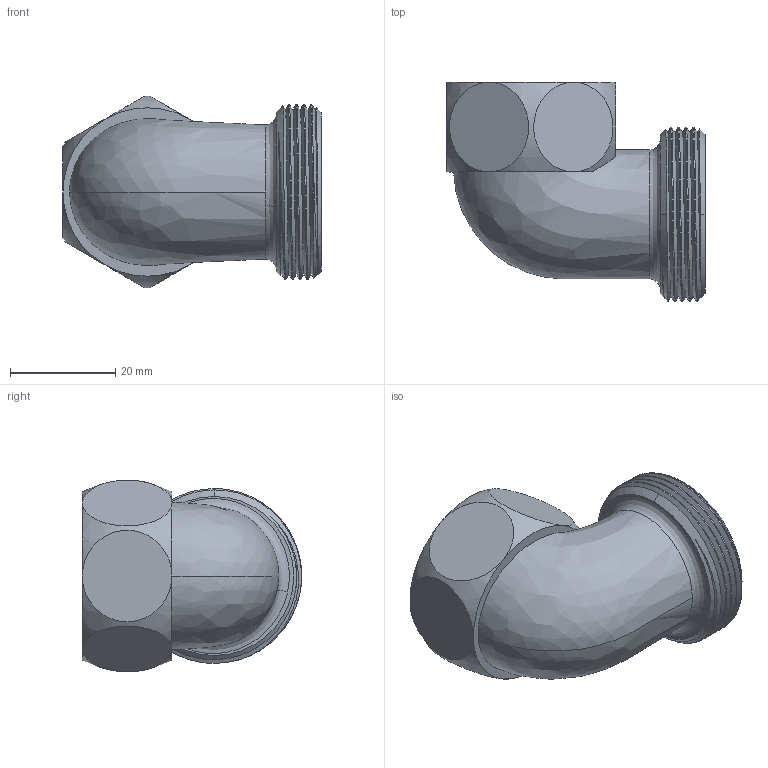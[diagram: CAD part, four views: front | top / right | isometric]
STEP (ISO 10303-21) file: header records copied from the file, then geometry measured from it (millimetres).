
FILE_DESCRIPTION (( 'STEP AP203' ), '1' );
FILE_NAME ('34X1.STEP', '2019-01-16T00:49:56', ( '微软用户' ), ( '微软中国' ), 'SwSTEP 2.0', 'SolidWorks 2008', '' );
FILE_SCHEMA (( 'CONFIG_CONTROL_DESIGN' ));
Length unit declared in the file: millimetre
Products named in the file (1): 34X1
Bounding box: 49 x 41.63 x 36.39 mm (x, y, z)
Volume: 14082.4 mm3; surface area: 11283.9 mm2
Topology: 1 solids, 1 shells, 66 faces, 175 edges, 113 vertices
Faces by surface type: cylinder 29, plane 13, bspline 10, cone 8, torus 6
Entity records: 5945 total; most frequent: CARTESIAN_POINT 4497, ORIENTED_EDGE 350, DIRECTION 216, EDGE_CURVE 175, VERTEX_POINT 113, AXIS2_PLACEMENT_3D 89, EDGE_LOOP 70, ADVANCED_FACE 66
